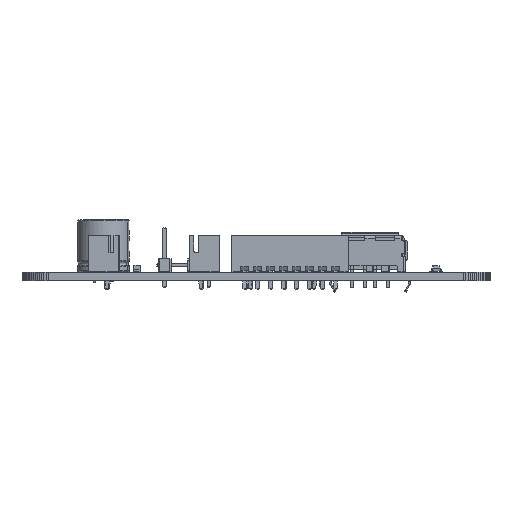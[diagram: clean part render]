
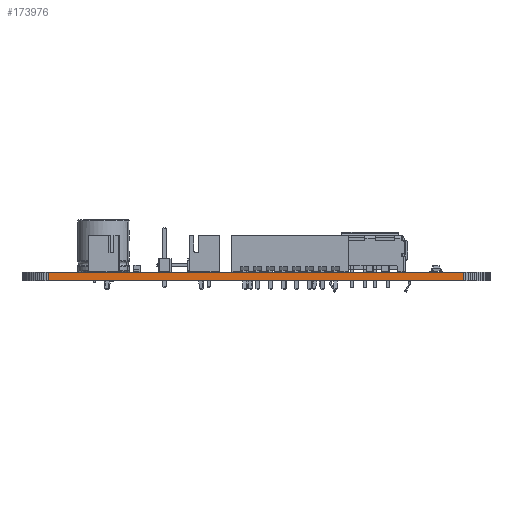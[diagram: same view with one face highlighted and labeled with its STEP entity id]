
A CAD part, front view. The second image highlights one B-rep face of the part: STEP entity #173976.
In plain terms, the highlighted planar face has unit normal (0, -1, 0).
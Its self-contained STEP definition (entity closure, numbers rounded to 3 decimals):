
#157320 = PLANE('',#157321);
#157321 = AXIS2_PLACEMENT_3D('',#157322,#157323,#157324);
#157322 = CARTESIAN_POINT('',(45.014,-39.993,1.6));
#157323 = DIRECTION('',(-0.,-0.,-1.));
#157324 = DIRECTION('',(-1.,0.,0.));
#157374 = PLANE('',#157375);
#157375 = AXIS2_PLACEMENT_3D('',#157376,#157377,#157378);
#157376 = CARTESIAN_POINT('',(45.014,-39.993,0.));
#157377 = DIRECTION('',(-0.,-0.,-1.));
#157378 = DIRECTION('',(-1.,0.,0.));
#158463 = VERTEX_POINT('',#158464);
#158464 = CARTESIAN_POINT('',(84.963,-80.01,0.));
#158478 = PLANE('',#158479);
#158479 = AXIS2_PLACEMENT_3D('',#158480,#158481,#158482);
#158480 = CARTESIAN_POINT('',(85.406,-79.994,0.));
#158481 = DIRECTION('',(0.037,-0.999,0.));
#158482 = DIRECTION('',(-0.999,-0.037,0.));
#158490 = EDGE_CURVE('',#158463,#158491,#158493,.T.);
#158491 = VERTEX_POINT('',#158492);
#158492 = CARTESIAN_POINT('',(5.08,-80.01,0.));
#158493 = SURFACE_CURVE('',#158494,(#158498,#158505),.PCURVE_S1.);
#158494 = LINE('',#158495,#158496);
#158495 = CARTESIAN_POINT('',(84.963,-80.01,0.));
#158496 = VECTOR('',#158497,1.);
#158497 = DIRECTION('',(-1.,0.,0.));
#158498 = PCURVE('',#157374,#158499);
#158499 = DEFINITIONAL_REPRESENTATION('',(#158500),#158504);
#158500 = LINE('',#158501,#158502);
#158501 = CARTESIAN_POINT('',(-39.949,-40.017));
#158502 = VECTOR('',#158503,1.);
#158503 = DIRECTION('',(1.,0.));
#158504 = ( GEOMETRIC_REPRESENTATION_CONTEXT(2) 
PARAMETRIC_REPRESENTATION_CONTEXT() REPRESENTATION_CONTEXT('2D SPACE',''
  ) );
#158505 = PCURVE('',#158506,#158511);
#158506 = PLANE('',#158507);
#158507 = AXIS2_PLACEMENT_3D('',#158508,#158509,#158510);
#158508 = CARTESIAN_POINT('',(84.963,-80.01,0.));
#158509 = DIRECTION('',(0.,-1.,0.));
#158510 = DIRECTION('',(-1.,0.,0.));
#158511 = DEFINITIONAL_REPRESENTATION('',(#158512),#158516);
#158512 = LINE('',#158513,#158514);
#158513 = CARTESIAN_POINT('',(0.,-0.));
#158514 = VECTOR('',#158515,1.);
#158515 = DIRECTION('',(1.,0.));
#158516 = ( GEOMETRIC_REPRESENTATION_CONTEXT(2) 
PARAMETRIC_REPRESENTATION_CONTEXT() REPRESENTATION_CONTEXT('2D SPACE',''
  ) );
#158534 = PLANE('',#158535);
#158535 = AXIS2_PLACEMENT_3D('',#158536,#158537,#158538);
#158536 = CARTESIAN_POINT('',(5.08,-80.01,0.));
#158537 = DIRECTION('',(-0.028,-1.,0.));
#158538 = DIRECTION('',(-1.,0.028,0.));
#166186 = VERTEX_POINT('',#166187);
#166187 = CARTESIAN_POINT('',(84.963,-80.01,1.6));
#166208 = EDGE_CURVE('',#166186,#166209,#166211,.T.);
#166209 = VERTEX_POINT('',#166210);
#166210 = CARTESIAN_POINT('',(5.08,-80.01,1.6));
#166211 = SURFACE_CURVE('',#166212,(#166216,#166223),.PCURVE_S1.);
#166212 = LINE('',#166213,#166214);
#166213 = CARTESIAN_POINT('',(84.963,-80.01,1.6));
#166214 = VECTOR('',#166215,1.);
#166215 = DIRECTION('',(-1.,0.,0.));
#166216 = PCURVE('',#157320,#166217);
#166217 = DEFINITIONAL_REPRESENTATION('',(#166218),#166222);
#166218 = LINE('',#166219,#166220);
#166219 = CARTESIAN_POINT('',(-39.949,-40.017));
#166220 = VECTOR('',#166221,1.);
#166221 = DIRECTION('',(1.,0.));
#166222 = ( GEOMETRIC_REPRESENTATION_CONTEXT(2) 
PARAMETRIC_REPRESENTATION_CONTEXT() REPRESENTATION_CONTEXT('2D SPACE',''
  ) );
#166223 = PCURVE('',#158506,#166224);
#166224 = DEFINITIONAL_REPRESENTATION('',(#166225),#166229);
#166225 = LINE('',#166226,#166227);
#166226 = CARTESIAN_POINT('',(0.,-1.6));
#166227 = VECTOR('',#166228,1.);
#166228 = DIRECTION('',(1.,0.));
#166229 = ( GEOMETRIC_REPRESENTATION_CONTEXT(2) 
PARAMETRIC_REPRESENTATION_CONTEXT() REPRESENTATION_CONTEXT('2D SPACE',''
  ) );
#173928 = EDGE_CURVE('',#158463,#166186,#173929,.T.);
#173929 = SURFACE_CURVE('',#173930,(#173934,#173941),.PCURVE_S1.);
#173930 = LINE('',#173931,#173932);
#173931 = CARTESIAN_POINT('',(84.963,-80.01,0.));
#173932 = VECTOR('',#173933,1.);
#173933 = DIRECTION('',(0.,0.,1.));
#173934 = PCURVE('',#158478,#173935);
#173935 = DEFINITIONAL_REPRESENTATION('',(#173936),#173940);
#173936 = LINE('',#173937,#173938);
#173937 = CARTESIAN_POINT('',(0.443,0.));
#173938 = VECTOR('',#173939,1.);
#173939 = DIRECTION('',(0.,-1.));
#173940 = ( GEOMETRIC_REPRESENTATION_CONTEXT(2) 
PARAMETRIC_REPRESENTATION_CONTEXT() REPRESENTATION_CONTEXT('2D SPACE',''
  ) );
#173941 = PCURVE('',#158506,#173942);
#173942 = DEFINITIONAL_REPRESENTATION('',(#173943),#173947);
#173943 = LINE('',#173944,#173945);
#173944 = CARTESIAN_POINT('',(0.,-0.));
#173945 = VECTOR('',#173946,1.);
#173946 = DIRECTION('',(0.,-1.));
#173947 = ( GEOMETRIC_REPRESENTATION_CONTEXT(2) 
PARAMETRIC_REPRESENTATION_CONTEXT() REPRESENTATION_CONTEXT('2D SPACE',''
  ) );
#173976 = ADVANCED_FACE('',(#173977),#158506,.T.);
#173977 = FACE_BOUND('',#173978,.T.);
#173978 = EDGE_LOOP('',(#173979,#173980,#173981,#174002));
#173979 = ORIENTED_EDGE('',*,*,#173928,.T.);
#173980 = ORIENTED_EDGE('',*,*,#166208,.T.);
#173981 = ORIENTED_EDGE('',*,*,#173982,.F.);
#173982 = EDGE_CURVE('',#158491,#166209,#173983,.T.);
#173983 = SURFACE_CURVE('',#173984,(#173988,#173995),.PCURVE_S1.);
#173984 = LINE('',#173985,#173986);
#173985 = CARTESIAN_POINT('',(5.08,-80.01,0.));
#173986 = VECTOR('',#173987,1.);
#173987 = DIRECTION('',(0.,0.,1.));
#173988 = PCURVE('',#158506,#173989);
#173989 = DEFINITIONAL_REPRESENTATION('',(#173990),#173994);
#173990 = LINE('',#173991,#173992);
#173991 = CARTESIAN_POINT('',(79.883,0.));
#173992 = VECTOR('',#173993,1.);
#173993 = DIRECTION('',(0.,-1.));
#173994 = ( GEOMETRIC_REPRESENTATION_CONTEXT(2) 
PARAMETRIC_REPRESENTATION_CONTEXT() REPRESENTATION_CONTEXT('2D SPACE',''
  ) );
#173995 = PCURVE('',#158534,#173996);
#173996 = DEFINITIONAL_REPRESENTATION('',(#173997),#174001);
#173997 = LINE('',#173998,#173999);
#173998 = CARTESIAN_POINT('',(0.,0.));
#173999 = VECTOR('',#174000,1.);
#174000 = DIRECTION('',(0.,-1.));
#174001 = ( GEOMETRIC_REPRESENTATION_CONTEXT(2) 
PARAMETRIC_REPRESENTATION_CONTEXT() REPRESENTATION_CONTEXT('2D SPACE',''
  ) );
#174002 = ORIENTED_EDGE('',*,*,#158490,.F.);
